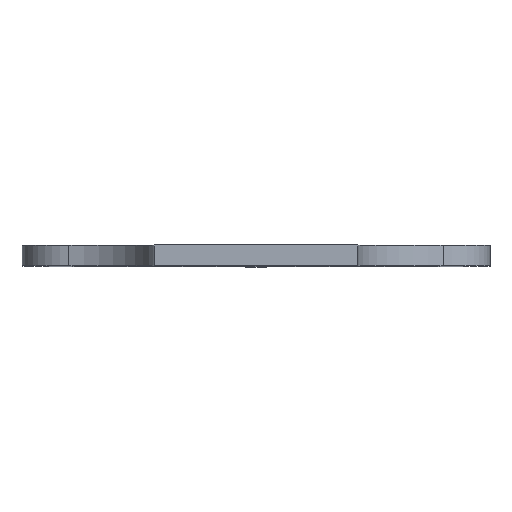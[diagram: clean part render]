
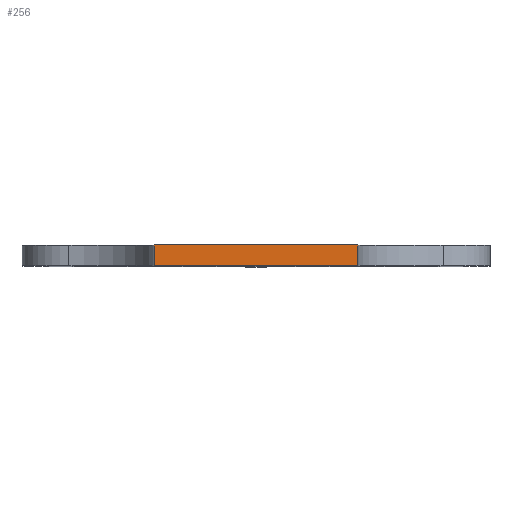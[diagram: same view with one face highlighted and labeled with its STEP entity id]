
A CAD part, top view. The second image highlights one B-rep face of the part: STEP entity #256.
In plain terms, the highlighted planar face has unit normal (0, 0, 1).
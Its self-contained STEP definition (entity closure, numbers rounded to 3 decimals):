
#31 = CARTESIAN_POINT ( 'NONE',  ( -10., 2., 43. ) ) ;
#141 = VERTEX_POINT ( 'NONE', #1256 ) ;
#162 = CARTESIAN_POINT ( 'NONE',  ( 10., 0., 43. ) ) ;
#181 = DIRECTION ( 'NONE',  ( 0., 1., 0. ) ) ;
#192 = VECTOR ( 'NONE', #181, 1000. ) ;
#229 = EDGE_CURVE ( 'NONE', #638, #141, #774, .T. ) ;
#256 = ADVANCED_FACE ( 'NONE', ( #658 ), #429, .T. ) ;
#272 = VECTOR ( 'NONE', #311, 1000. ) ;
#298 = CARTESIAN_POINT ( 'NONE',  ( -10., 0., 43. ) ) ;
#311 = DIRECTION ( 'NONE',  ( 1., 0., 0. ) ) ;
#402 = EDGE_CURVE ( 'NONE', #1037, #1082, #1541, .T. ) ;
#429 = PLANE ( 'NONE',  #556 ) ;
#452 = ORIENTED_EDGE ( 'NONE', *, *, #402, .F. ) ;
#556 = AXIS2_PLACEMENT_3D ( 'NONE', #298, #789, #1168 ) ;
#588 = CARTESIAN_POINT ( 'NONE',  ( -10., 0., 43. ) ) ;
#612 = EDGE_CURVE ( 'NONE', #1082, #141, #1502, .T. ) ;
#638 = VERTEX_POINT ( 'NONE', #800 ) ;
#651 = DIRECTION ( 'NONE',  ( 0., 1., 0. ) ) ;
#658 = FACE_OUTER_BOUND ( 'NONE', #830, .T. ) ;
#691 = ORIENTED_EDGE ( 'NONE', *, *, #807, .T. ) ;
#774 = LINE ( 'NONE', #162, #1516 ) ;
#789 = DIRECTION ( 'NONE',  ( 0., 0., 1. ) ) ;
#800 = CARTESIAN_POINT ( 'NONE',  ( 10., 0., 43. ) ) ;
#807 = EDGE_CURVE ( 'NONE', #1037, #638, #1306, .T. ) ;
#830 = EDGE_LOOP ( 'NONE', ( #890, #452, #691, #1182 ) ) ;
#890 = ORIENTED_EDGE ( 'NONE', *, *, #612, .F. ) ;
#1028 = CARTESIAN_POINT ( 'NONE',  ( -10., 0., 43. ) ) ;
#1037 = VERTEX_POINT ( 'NONE', #1028 ) ;
#1082 = VERTEX_POINT ( 'NONE', #31 ) ;
#1168 = DIRECTION ( 'NONE',  ( 1., 0., 0. ) ) ;
#1182 = ORIENTED_EDGE ( 'NONE', *, *, #229, .T. ) ;
#1256 = CARTESIAN_POINT ( 'NONE',  ( 10., 2., 43. ) ) ;
#1294 = CARTESIAN_POINT ( 'NONE',  ( -10., 0., 43. ) ) ;
#1306 = LINE ( 'NONE', #588, #1410 ) ;
#1410 = VECTOR ( 'NONE', #1576, 1000. ) ;
#1420 = CARTESIAN_POINT ( 'NONE',  ( -10., 2., 43. ) ) ;
#1502 = LINE ( 'NONE', #1420, #272 ) ;
#1516 = VECTOR ( 'NONE', #651, 1000. ) ;
#1541 = LINE ( 'NONE', #1294, #192 ) ;
#1576 = DIRECTION ( 'NONE',  ( 1., 0., 0. ) ) ;
